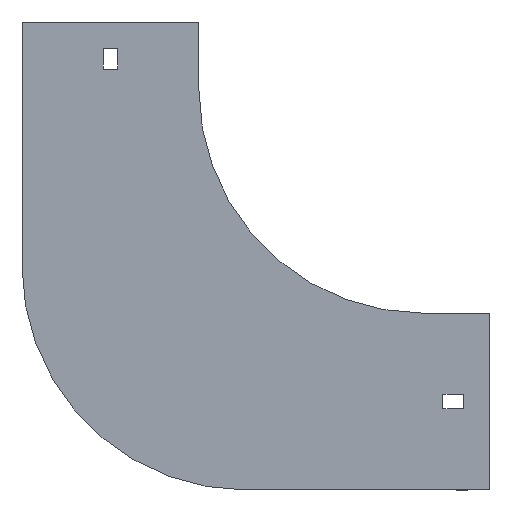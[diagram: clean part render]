
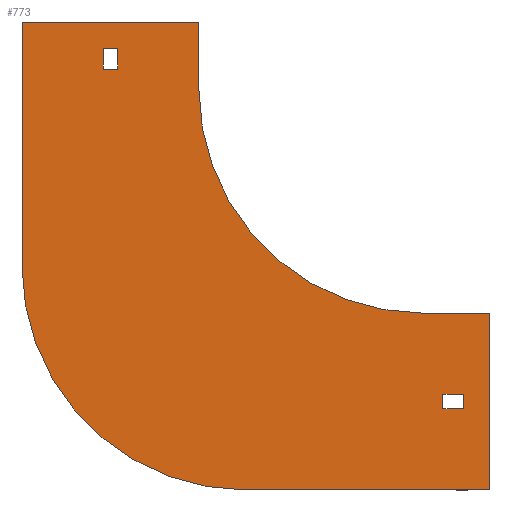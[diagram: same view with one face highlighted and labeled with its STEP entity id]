
A CAD part, front view. The second image highlights one B-rep face of the part: STEP entity #773.
In plain terms, the highlighted planar face has unit normal (0, -1, 0).
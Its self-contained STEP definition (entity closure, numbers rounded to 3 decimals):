
#4 = CARTESIAN_POINT ( 'NONE',  ( -142.75, 0., 18. ) ) ;
#40 = CARTESIAN_POINT ( 'NONE',  ( 18., 0., -142.75 ) ) ;
#42 = CIRCLE ( 'NONE', #893, 100. ) ;
#48 = CARTESIAN_POINT ( 'NONE',  ( -100., 0., 30. ) ) ;
#57 = ORIENTED_EDGE ( 'NONE', *, *, #771, .T. ) ;
#59 = CARTESIAN_POINT ( 'NONE',  ( 0., 0., 0. ) ) ;
#62 = DIRECTION ( 'NONE',  ( 0., 0., -1. ) ) ;
#82 = DIRECTION ( 'NONE',  ( 1., 0., 0. ) ) ;
#125 = LINE ( 'NONE', #4, #597 ) ;
#146 = ORIENTED_EDGE ( 'NONE', *, *, #716, .F. ) ;
#150 = ORIENTED_EDGE ( 'NONE', *, *, #1111, .F. ) ;
#156 = ORIENTED_EDGE ( 'NONE', *, *, #466, .F. ) ;
#164 = CARTESIAN_POINT ( 'NONE',  ( 9., 0., -136.25 ) ) ;
#181 = LINE ( 'NONE', #1353, #556 ) ;
#185 = DIRECTION ( 'NONE',  ( 0., -1., 0. ) ) ;
#193 = ORIENTED_EDGE ( 'NONE', *, *, #343, .F. ) ;
#194 = DIRECTION ( 'NONE',  ( 0., 0., 1. ) ) ;
#197 = CARTESIAN_POINT ( 'NONE',  ( -79., 0., -179. ) ) ;
#200 = VERTEX_POINT ( 'NONE', #263 ) ;
#210 = DIRECTION ( 'NONE',  ( 0., 0., -1. ) ) ;
#220 = CARTESIAN_POINT ( 'NONE',  ( 0., 0., 0. ) ) ;
#223 = CARTESIAN_POINT ( 'NONE',  ( -136.25, 0., 9. ) ) ;
#229 = ORIENTED_EDGE ( 'NONE', *, *, #1219, .T. ) ;
#238 = VECTOR ( 'NONE', #923, 1000. ) ;
#245 = CARTESIAN_POINT ( 'NONE',  ( -136.25, 0., 18. ) ) ;
#253 = DIRECTION ( 'NONE',  ( 0., 0., -1. ) ) ;
#263 = CARTESIAN_POINT ( 'NONE',  ( -142.75, 0., 18. ) ) ;
#268 = EDGE_LOOP ( 'NONE', ( #540, #930, #293, #946, #156, #697, #526, #150 ) ) ;
#270 = LINE ( 'NONE', #48, #661 ) ;
#279 = CARTESIAN_POINT ( 'NONE',  ( -142.75, 0., 9. ) ) ;
#285 = LINE ( 'NONE', #1145, #372 ) ;
#292 = EDGE_CURVE ( 'NONE', #731, #953, #285, .T. ) ;
#293 = ORIENTED_EDGE ( 'NONE', *, *, #666, .F. ) ;
#310 = LINE ( 'NONE', #1068, #921 ) ;
#319 = LINE ( 'NONE', #223, #1225 ) ;
#328 = DIRECTION ( 'NONE',  ( 0., -1., 0. ) ) ;
#341 = FACE_BOUND ( 'NONE', #1200, .T. ) ;
#343 = EDGE_CURVE ( 'NONE', #1130, #1333, #1006, .T. ) ;
#353 = CIRCLE ( 'NONE', #1363, 100. ) ;
#356 = VECTOR ( 'NONE', #1109, 1000. ) ;
#359 = DIRECTION ( 'NONE',  ( 0., 0., 1. ) ) ;
#372 = VECTOR ( 'NONE', #1124, 1000. ) ;
#376 = VECTOR ( 'NONE', #194, 1000. ) ;
#388 = DIRECTION ( 'NONE',  ( 1., 0., 0. ) ) ;
#394 = EDGE_CURVE ( 'NONE', #1333, #838, #1368, .T. ) ;
#400 = DIRECTION ( 'NONE',  ( -1., 0., 0. ) ) ;
#401 = CARTESIAN_POINT ( 'NONE',  ( 0., 0., -100. ) ) ;
#409 = ORIENTED_EDGE ( 'NONE', *, *, #1401, .T. ) ;
#444 = AXIS2_PLACEMENT_3D ( 'NONE', #220, #328, #1403 ) ;
#452 = FACE_BOUND ( 'NONE', #866, .T. ) ;
#457 = EDGE_CURVE ( 'NONE', #1008, #889, #181, .T. ) ;
#466 = EDGE_CURVE ( 'NONE', #889, #1341, #714, .T. ) ;
#509 = LINE ( 'NONE', #1255, #376 ) ;
#515 = ORIENTED_EDGE ( 'NONE', *, *, #1332, .T. ) ;
#526 = ORIENTED_EDGE ( 'NONE', *, *, #1340, .F. ) ;
#531 = DIRECTION ( 'NONE',  ( -1., 0., 0. ) ) ;
#540 = ORIENTED_EDGE ( 'NONE', *, *, #292, .F. ) ;
#555 = CARTESIAN_POINT ( 'NONE',  ( -142.75, 0., 9. ) ) ;
#556 = VECTOR ( 'NONE', #388, 1000. ) ;
#569 = VERTEX_POINT ( 'NONE', #245 ) ;
#581 = CARTESIAN_POINT ( 'NONE',  ( 30., 0., -100. ) ) ;
#596 = DIRECTION ( 'NONE',  ( 0., 0., -1. ) ) ;
#597 = VECTOR ( 'NONE', #960, 1000. ) ;
#601 = EDGE_CURVE ( 'NONE', #815, #731, #1110, .T. ) ;
#602 = ORIENTED_EDGE ( 'NONE', *, *, #1246, .F. ) ;
#609 = CARTESIAN_POINT ( 'NONE',  ( 9., 0., -142.75 ) ) ;
#618 = ORIENTED_EDGE ( 'NONE', *, *, #394, .F. ) ;
#654 = DIRECTION ( 'NONE',  ( 0., 0., -1. ) ) ;
#661 = VECTOR ( 'NONE', #596, 1000. ) ;
#666 = EDGE_CURVE ( 'NONE', #926, #815, #42, .T. ) ;
#689 = VERTEX_POINT ( 'NONE', #891 ) ;
#697 = ORIENTED_EDGE ( 'NONE', *, *, #457, .F. ) ;
#714 = LINE ( 'NONE', #936, #1272 ) ;
#716 = EDGE_CURVE ( 'NONE', #838, #990, #1021, .T. ) ;
#731 = VERTEX_POINT ( 'NONE', #1186 ) ;
#733 = LINE ( 'NONE', #279, #801 ) ;
#741 = CARTESIAN_POINT ( 'NONE',  ( 18., 0., -136.25 ) ) ;
#762 = VERTEX_POINT ( 'NONE', #555 ) ;
#767 = PLANE ( 'NONE',  #444 ) ;
#771 = EDGE_CURVE ( 'NONE', #200, #569, #125, .T. ) ;
#773 = ADVANCED_FACE ( 'NONE', ( #452, #883, #341 ), #767, .T. ) ;
#780 = CARTESIAN_POINT ( 'NONE',  ( -136.25, 0., 9. ) ) ;
#801 = VECTOR ( 'NONE', #400, 1000. ) ;
#815 = VERTEX_POINT ( 'NONE', #1283 ) ;
#838 = VERTEX_POINT ( 'NONE', #1289 ) ;
#866 = EDGE_LOOP ( 'NONE', ( #515, #57, #409, #229 ) ) ;
#872 = CARTESIAN_POINT ( 'NONE',  ( 30., 0., -179. ) ) ;
#883 = FACE_OUTER_BOUND ( 'NONE', #268, .T. ) ;
#889 = VERTEX_POINT ( 'NONE', #581 ) ;
#891 = CARTESIAN_POINT ( 'NONE',  ( -100., 0., 0. ) ) ;
#892 = VECTOR ( 'NONE', #253, 1000. ) ;
#893 = AXIS2_PLACEMENT_3D ( 'NONE', #1329, #1232, #902 ) ;
#902 = DIRECTION ( 'NONE',  ( 0., 0., 1. ) ) ;
#921 = VECTOR ( 'NONE', #531, 1000. ) ;
#923 = DIRECTION ( 'NONE',  ( 0., 0., 1. ) ) ;
#926 = VERTEX_POINT ( 'NONE', #197 ) ;
#930 = ORIENTED_EDGE ( 'NONE', *, *, #601, .F. ) ;
#936 = CARTESIAN_POINT ( 'NONE',  ( 30., 0., -100. ) ) ;
#946 = ORIENTED_EDGE ( 'NONE', *, *, #1148, .F. ) ;
#953 = VERTEX_POINT ( 'NONE', #1045 ) ;
#960 = DIRECTION ( 'NONE',  ( 1., 0., 0. ) ) ;
#963 = VECTOR ( 'NONE', #82, 1000. ) ;
#990 = VERTEX_POINT ( 'NONE', #741 ) ;
#1002 = CARTESIAN_POINT ( 'NONE',  ( 30., 0., -179. ) ) ;
#1003 = CARTESIAN_POINT ( 'NONE',  ( -179., 0., -79. ) ) ;
#1006 = LINE ( 'NONE', #1018, #892 ) ;
#1008 = VERTEX_POINT ( 'NONE', #401 ) ;
#1018 = CARTESIAN_POINT ( 'NONE',  ( 9., 0., -142.75 ) ) ;
#1021 = LINE ( 'NONE', #40, #238 ) ;
#1028 = LINE ( 'NONE', #1002, #356 ) ;
#1045 = CARTESIAN_POINT ( 'NONE',  ( -100., 0., 30. ) ) ;
#1068 = CARTESIAN_POINT ( 'NONE',  ( 9., 0., -136.25 ) ) ;
#1099 = VECTOR ( 'NONE', #359, 1000. ) ;
#1102 = VERTEX_POINT ( 'NONE', #780 ) ;
#1109 = DIRECTION ( 'NONE',  ( -1., 0., 0. ) ) ;
#1110 = LINE ( 'NONE', #1003, #1099 ) ;
#1111 = EDGE_CURVE ( 'NONE', #953, #689, #270, .T. ) ;
#1124 = DIRECTION ( 'NONE',  ( 1., 0., 0. ) ) ;
#1130 = VERTEX_POINT ( 'NONE', #164 ) ;
#1145 = CARTESIAN_POINT ( 'NONE',  ( -179., 0., 30. ) ) ;
#1148 = EDGE_CURVE ( 'NONE', #1341, #926, #1028, .T. ) ;
#1186 = CARTESIAN_POINT ( 'NONE',  ( -179., 0., 30. ) ) ;
#1200 = EDGE_LOOP ( 'NONE', ( #146, #618, #193, #602 ) ) ;
#1219 = EDGE_CURVE ( 'NONE', #1102, #762, #733, .T. ) ;
#1225 = VECTOR ( 'NONE', #654, 1000. ) ;
#1232 = DIRECTION ( 'NONE',  ( 0., 1., 0. ) ) ;
#1246 = EDGE_CURVE ( 'NONE', #990, #1130, #310, .T. ) ;
#1255 = CARTESIAN_POINT ( 'NONE',  ( -142.75, 0., 9. ) ) ;
#1272 = VECTOR ( 'NONE', #62, 1000. ) ;
#1283 = CARTESIAN_POINT ( 'NONE',  ( -179., 0., -79. ) ) ;
#1289 = CARTESIAN_POINT ( 'NONE',  ( 18., 0., -142.75 ) ) ;
#1329 = CARTESIAN_POINT ( 'NONE',  ( -79., 0., -79. ) ) ;
#1332 = EDGE_CURVE ( 'NONE', #762, #200, #509, .T. ) ;
#1333 = VERTEX_POINT ( 'NONE', #609 ) ;
#1340 = EDGE_CURVE ( 'NONE', #689, #1008, #353, .T. ) ;
#1341 = VERTEX_POINT ( 'NONE', #872 ) ;
#1353 = CARTESIAN_POINT ( 'NONE',  ( 0., 0., -100. ) ) ;
#1363 = AXIS2_PLACEMENT_3D ( 'NONE', #59, #185, #210 ) ;
#1368 = LINE ( 'NONE', #1384, #963 ) ;
#1384 = CARTESIAN_POINT ( 'NONE',  ( 9., 0., -142.75 ) ) ;
#1401 = EDGE_CURVE ( 'NONE', #569, #1102, #319, .T. ) ;
#1403 = DIRECTION ( 'NONE',  ( 0., 0., -1. ) ) ;
